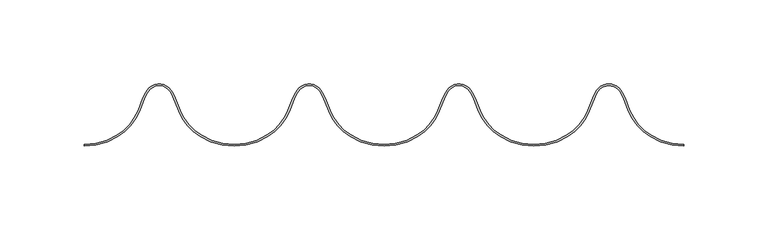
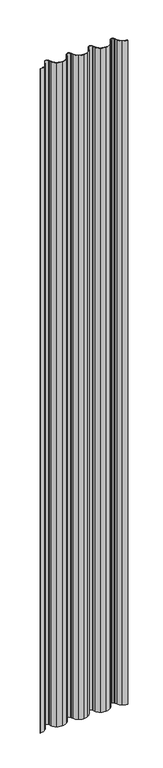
"""IFC4 building model written with IfcOpenShell, lengths in millimetres: plate geometry, Regolare Vertical 356 : Regolare Vertical 356."""

from ifc_helpers import new_model, si_unit, point, frame_2d, origin, origin_with_axes, place, context, project, spatial, polyline, circle_curve, trimmed, segment, composite_curve, outline, extrude, source, transform, mapped, element, save


def plate_88216186(model_context):
    return source(origin(), model_context, "Body", "SweptSolid", [
        extrude(outline(composite_curve([segment(trimmed(circle_curve(frame_2d((178.1029782, 38.4503244)), 37.4503244), [point((158.562228, 6.5021495))], [point((178.1029782, 1.0))], True, "CARTESIAN"), True, "CONTINUOUS"), segment(polyline([(178.1029782, 1.0), (178.1029782, 0.0)]), True, "CONTINUOUS"), segment(trimmed(circle_curve(frame_2d((178.1029782, 38.4503244)), 38.4503244), [point((178.1029782, 0.0))], [point((158.0404502, 5.6490681))], False, "CARTESIAN"), True, "CONTINUOUS"), segment(trimmed(circle_curve(frame_2d((174.5373329, 32.6206681)), 31.6166783), [point((158.0404502, 5.6490681))], [point((145.1818487, 20.878867))], False, "CARTESIAN"), True, "CONTINUOUS"), segment(polyline([(145.1818487, 20.878867), (142.312627, 28.0423924), (140.6662733, 31.4771017)]), True, "CONTINUOUS"), segment(trimmed(circle_curve(frame_2d((133.5772336, 28.0791236)), 7.8613445), [point((140.6662733, 31.4771017))], [point((133.5772336, 35.9404682))], True, "CARTESIAN"), True, "CONTINUOUS"), segment(trimmed(circle_curve(frame_2d((133.5772336, 28.0791236)), 7.8613445), [point((133.5772336, 35.9404682))], [point((126.488194, 31.4771017))], True, "CARTESIAN"), True, "CONTINUOUS"), segment(polyline([(126.488194, 31.4771017), (124.8418403, 28.0423924), (121.9726185, 20.878867)]), True, "CONTINUOUS"), segment(trimmed(circle_curve(frame_2d((92.6171343, 32.6206681)), 31.6166783), [point((121.9726185, 20.878867))], [point((109.1140171, 5.6490681))], False, "CARTESIAN"), True, "CONTINUOUS"), segment(trimmed(circle_curve(frame_2d((89.0514891, 38.4503244)), 38.4503244), [point((109.1140171, 5.6490681))], [point((89.0514891, 0.0))], False, "CARTESIAN"), True, "CONTINUOUS"), segment(trimmed(circle_curve(frame_2d((89.0514891, 38.4503244)), 38.4503244), [point((89.0514891, 0.0))], [point((68.9889611, 5.6490681))], False, "CARTESIAN"), True, "CONTINUOUS"), segment(trimmed(circle_curve(frame_2d((85.4858438, 32.6206681)), 31.6166783), [point((68.9889611, 5.6490681))], [point((56.1303596, 20.878867))], False, "CARTESIAN"), True, "CONTINUOUS"), segment(polyline([(56.1303596, 20.878867), (53.2611379, 28.0423924), (51.6147842, 31.4771017)]), True, "CONTINUOUS"), segment(trimmed(circle_curve(frame_2d((44.5257445, 28.0791236)), 7.8613445), [point((51.6147842, 31.4771017))], [point((37.4367049, 31.4771017))], True, "CARTESIAN"), True, "CONTINUOUS"), segment(polyline([(37.4367049, 31.4771017), (35.7903512, 28.0423924), (32.9211295, 20.878867)]), True, "CONTINUOUS"), segment(trimmed(circle_curve(frame_2d((3.5656452, 32.6206681)), 31.6166783), [point((32.9211295, 20.878867))], [point((20.062528, 5.6490681))], False, "CARTESIAN"), True, "CONTINUOUS"), segment(trimmed(circle_curve(frame_2d((0.0, 38.4503244)), 38.4503244), [point((20.062528, 5.6490681))], [point((0.0, 0.0))], False, "CARTESIAN"), True, "CONTINUOUS"), segment(trimmed(circle_curve(frame_2d((0.0, 38.4503244)), 38.4503244), [point((0.0, 0.0))], [point((-20.062528, 5.6490681))], False, "CARTESIAN"), True, "CONTINUOUS"), segment(trimmed(circle_curve(frame_2d((-3.5656452, 32.6206681)), 31.6166783), [point((-20.062528, 5.6490681))], [point((-32.9211295, 20.878867))], False, "CARTESIAN"), True, "CONTINUOUS"), segment(polyline([(-32.9211295, 20.878867), (-35.7903512, 28.0423924), (-37.4367049, 31.4771017)]), True, "CONTINUOUS"), segment(trimmed(circle_curve(frame_2d((-44.5257445, 28.0791236)), 7.8613445), [point((-37.4367049, 31.4771017))], [point((-51.6147842, 31.4771017))], True, "CARTESIAN"), True, "CONTINUOUS"), segment(polyline([(-51.6147842, 31.4771017), (-53.2611379, 28.0423924), (-56.1303596, 20.878867)]), True, "CONTINUOUS"), segment(trimmed(circle_curve(frame_2d((-85.4858438, 32.6206681)), 31.6166783), [point((-56.1303596, 20.878867))], [point((-68.9889611, 5.6490681))], False, "CARTESIAN"), True, "CONTINUOUS"), segment(trimmed(circle_curve(frame_2d((-89.0514891, 38.4503244)), 38.4503244), [point((-68.9889611, 5.6490681))], [point((-89.0514891, 0.0))], False, "CARTESIAN"), True, "CONTINUOUS"), segment(trimmed(circle_curve(frame_2d((-89.0514891, 38.4503244)), 38.4503244), [point((-89.0514891, 0.0))], [point((-109.1140171, 5.6490681))], False, "CARTESIAN"), True, "CONTINUOUS"), segment(trimmed(circle_curve(frame_2d((-92.6171343, 32.6206681)), 31.6166783), [point((-109.1140171, 5.6490681))], [point((-121.9726185, 20.878867))], False, "CARTESIAN"), True, "CONTINUOUS"), segment(polyline([(-121.9726185, 20.878867), (-124.8418403, 28.0423924), (-126.488194, 31.4771017)]), True, "CONTINUOUS"), segment(trimmed(circle_curve(frame_2d((-133.5772336, 28.0791236)), 7.8613445), [point((-126.488194, 31.4771017))], [point((-140.6662733, 31.4771017))], True, "CARTESIAN"), True, "CONTINUOUS"), segment(polyline([(-140.6662733, 31.4771017), (-142.312627, 28.0423924), (-145.1818487, 20.878867)]), True, "CONTINUOUS"), segment(trimmed(circle_curve(frame_2d((-174.5373329, 32.6206681)), 31.6166783), [point((-145.1818487, 20.878867))], [point((-158.0404502, 5.6490681))], False, "CARTESIAN"), True, "CONTINUOUS"), segment(trimmed(circle_curve(frame_2d((-178.1029782, 38.4503244)), 38.4503244), [point((-158.0404502, 5.6490681))], [point((-178.1029782, 0.0))], False, "CARTESIAN"), True, "CONTINUOUS"), segment(polyline([(-178.1029782, 0.0), (-178.1029782, 1.0)]), True, "CONTINUOUS"), segment(trimmed(circle_curve(frame_2d((-178.1029782, 38.4503244)), 37.4503244), [point((-178.1029782, 1.0))], [point((-158.562228, 6.5021495))], True, "CARTESIAN"), True, "CONTINUOUS"), segment(trimmed(circle_curve(frame_2d((-174.5373329, 32.6206681)), 30.6166783), [point((-158.562228, 6.5021495))], [point((-146.1102431, 21.2504634))], True, "CARTESIAN"), True, "CONTINUOUS"), segment(polyline([(-146.1102431, 21.2504634), (-143.2286572, 28.4448583), (-141.5680324, 31.9093405)]), True, "CONTINUOUS"), segment(trimmed(circle_curve(frame_2d((-133.5772336, 28.0791236)), 8.8613445), [point((-141.5680324, 31.9093405))], [point((-125.5864348, 31.9093405))], False, "CARTESIAN"), True, "CONTINUOUS"), segment(polyline([(-125.5864348, 31.9093405), (-123.9258101, 28.4448583), (-121.0442242, 21.2504634)]), True, "CONTINUOUS"), segment(trimmed(circle_curve(frame_2d((-92.6171343, 32.6206681)), 30.6166783), [point((-121.0442242, 21.2504634))], [point((-108.5922392, 6.5021495))], True, "CARTESIAN"), True, "CONTINUOUS"), segment(trimmed(circle_curve(frame_2d((-89.0514891, 38.4503244)), 37.4503244), [point((-108.5922392, 6.5021495))], [point((-89.0514891, 1.0))], True, "CARTESIAN"), True, "CONTINUOUS"), segment(trimmed(circle_curve(frame_2d((-89.0514891, 38.4503244)), 37.4503244), [point((-89.0514891, 1.0))], [point((-69.5107389, 6.5021495))], True, "CARTESIAN"), True, "CONTINUOUS"), segment(trimmed(circle_curve(frame_2d((-85.4858438, 32.6206681)), 30.6166783), [point((-69.5107389, 6.5021495))], [point((-57.058754, 21.2504634))], True, "CARTESIAN"), True, "CONTINUOUS"), segment(polyline([(-57.058754, 21.2504634), (-54.1771681, 28.4448583), (-52.5165434, 31.9093405)]), True, "CONTINUOUS"), segment(trimmed(circle_curve(frame_2d((-44.5257445, 28.0791236)), 8.8613445), [point((-52.5165434, 31.9093405))], [point((-36.5349457, 31.9093405))], False, "CARTESIAN"), True, "CONTINUOUS"), segment(polyline([(-36.5349457, 31.9093405), (-34.874321, 28.4448583), (-31.9927351, 21.2504634)]), True, "CONTINUOUS"), segment(trimmed(circle_curve(frame_2d((-3.5656452, 32.6206681)), 30.6166783), [point((-31.9927351, 21.2504634))], [point((-19.5407501, 6.5021495))], True, "CARTESIAN"), True, "CONTINUOUS"), segment(trimmed(circle_curve(frame_2d((0.0, 38.4503244)), 37.4503244), [point((-19.5407501, 6.5021495))], [point((0.0, 1.0))], True, "CARTESIAN"), True, "CONTINUOUS"), segment(trimmed(circle_curve(frame_2d((0.0, 38.4503244)), 37.4503244), [point((0.0, 1.0))], [point((19.5407501, 6.5021495))], True, "CARTESIAN"), True, "CONTINUOUS"), segment(trimmed(circle_curve(frame_2d((3.5656452, 32.6206681)), 30.6166783), [point((19.5407501, 6.5021495))], [point((31.9927351, 21.2504634))], True, "CARTESIAN"), True, "CONTINUOUS"), segment(polyline([(31.9927351, 21.2504634), (34.874321, 28.4448583), (36.5349457, 31.9093405)]), True, "CONTINUOUS"), segment(trimmed(circle_curve(frame_2d((44.5257445, 28.0791236)), 8.8613445), [point((36.5349457, 31.9093405))], [point((52.5165434, 31.9093405))], False, "CARTESIAN"), True, "CONTINUOUS"), segment(polyline([(52.5165434, 31.9093405), (54.1771681, 28.4448583), (57.058754, 21.2504634)]), True, "CONTINUOUS"), segment(trimmed(circle_curve(frame_2d((85.4858438, 32.6206681)), 30.6166783), [point((57.058754, 21.2504634))], [point((69.5107389, 6.5021495))], True, "CARTESIAN"), True, "CONTINUOUS"), segment(trimmed(circle_curve(frame_2d((89.0514891, 38.4503244)), 37.4503244), [point((69.5107389, 6.5021495))], [point((89.0514891, 1.0))], True, "CARTESIAN"), True, "CONTINUOUS"), segment(trimmed(circle_curve(frame_2d((89.0514891, 38.4503244)), 37.4503244), [point((89.0514891, 1.0))], [point((108.5922392, 6.5021495))], True, "CARTESIAN"), True, "CONTINUOUS"), segment(trimmed(circle_curve(frame_2d((92.6171343, 32.6206681)), 30.6166783), [point((108.5922392, 6.5021495))], [point((121.0442242, 21.2504634))], True, "CARTESIAN"), True, "CONTINUOUS"), segment(polyline([(121.0442242, 21.2504634), (123.9258101, 28.4448583), (125.5864348, 31.9093405)]), True, "CONTINUOUS"), segment(trimmed(circle_curve(frame_2d((133.5772336, 28.0791236)), 8.8613445), [point((125.5864348, 31.9093405))], [point((133.5772336, 36.9404682))], False, "CARTESIAN"), True, "CONTINUOUS"), segment(trimmed(circle_curve(frame_2d((133.5772336, 28.0791236)), 8.8613445), [point((133.5772336, 36.9404682))], [point((141.5680324, 31.9093405))], False, "CARTESIAN"), True, "CONTINUOUS"), segment(polyline([(141.5680324, 31.9093405), (143.2286572, 28.4448583), (146.1102431, 21.2504634)]), True, "CONTINUOUS"), segment(trimmed(circle_curve(frame_2d((174.5373329, 32.6206681)), 30.6166783), [point((146.1102431, 21.2504634))], [point((158.562228, 6.5021495))], True, "CARTESIAN"), True, "CONTINUOUS")], self_intersect=False)), origin_with_axes(), (0.0, 0.0, 1.0), 2859.2009216),
    ])


if __name__ == "__main__":
    model = new_model("IFC4")
    model_context = context("Model", 3, world=origin())
    ifc_project = project(units=[si_unit("LENGTHUNIT", "METRE", prefix="MILLI")], contexts=[model_context])
    site = spatial("IfcSite", under=ifc_project)
    building = spatial("IfcBuilding", under=site)
    placement = place(None, origin())
    plate_shape = plate_88216186(model_context)
    element("IfcPlate", 1, ObjectType="Regolare Vertical 356 : Regolare Vertical 356", at=placement, inside=building, context=model_context, shape_type="MappedRepresentation", body=[
        mapped(plate_shape, transform((0.0, 0.0, 0.0), x_axis=(1.0, 0.0, 0.0), y_axis=(0.0, 1.0, 0.0), z_axis=(0.0, 0.0, 1.0))),
    ])
    save(model, "model.ifc")
